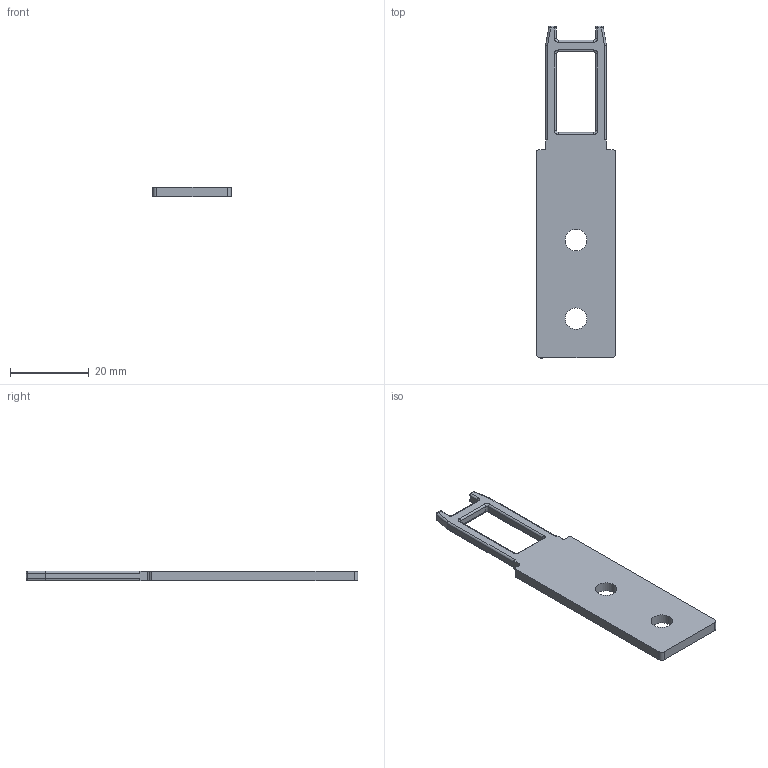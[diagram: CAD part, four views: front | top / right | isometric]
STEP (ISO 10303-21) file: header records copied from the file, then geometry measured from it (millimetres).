
FILE_DESCRIPTION(/* description */ (''),/* implementation_level */ '2;1');
FILE_NAME(/* name */ 'C:\Users\servizio.tecnico\Desktop\key 26.stp',/* time_stamp */ '2017-11-09T08:56:58+01:00',/* author */ ('servizio.tecnico'),/* organization */ (''),/* preprocessor_version */ 'ST-DEVELOPER v16.1',/* originating_system */ 'Autodesk Inventor 2016',/* authorisation */ '');
FILE_SCHEMA (('AUTOMOTIVE_DESIGN { 1 0 10303 214 3 1 1 }'));
Length unit declared in the file: millimetre
Products named in the file (1): TR2646PE_00
Bounding box: 20 x 84.5 x 2.5 mm (x, y, z)
Volume: 3122.7 mm3; surface area: 3217.2 mm2
Topology: 1 solids, 1 shells, 88 faces, 209 edges, 122 vertices
Faces by surface type: cylinder 44, plane 24, torus 12, sphere 8
Full cylindrical faces by diameter (mm): 5.5 x2
Entity records: 2611 total; most frequent: DIRECTION 478, CARTESIAN_POINT 413, ORIENTED_EDGE 408, EDGE_CURVE 204, AXIS2_PLACEMENT_3D 185, VERTEX_POINT 120, LINE 108, VECTOR 108
